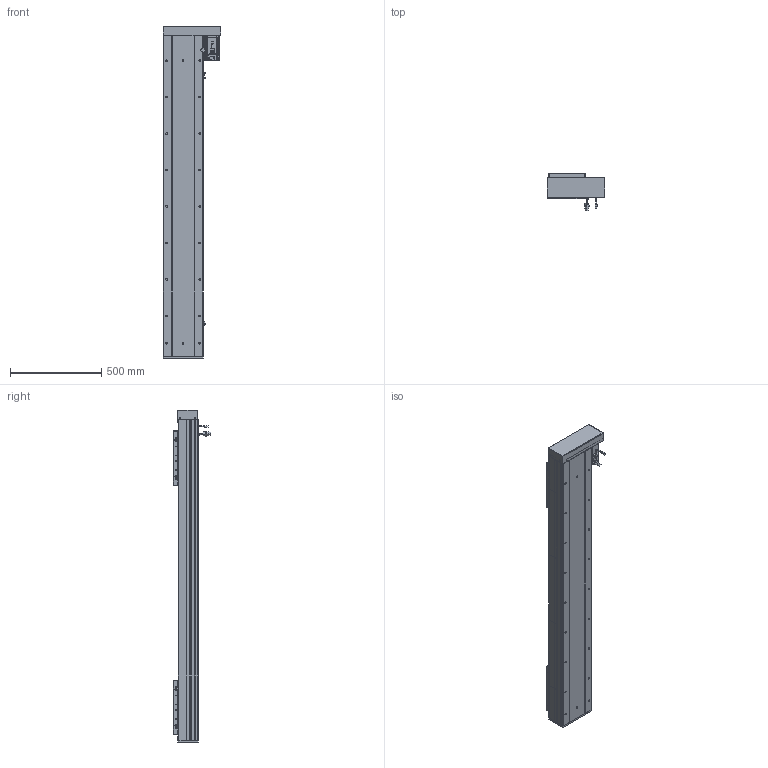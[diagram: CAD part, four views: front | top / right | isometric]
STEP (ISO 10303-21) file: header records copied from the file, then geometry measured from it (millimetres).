
FILE_DESCRIPTION (( 'STEP AP203' ), '1' );
FILE_NAME ('RY220F-L2525-300-RK.SLDASM_1350.step', '2022-07-04T01:35:38', ( '' ), ( '' ), 'SwSTEP 2.0', 'SolidWorks 2016', '' );
FILE_SCHEMA (( 'CONFIG_CONTROL_DESIGN' ));
Length unit declared in the file: millimetre
Products named in the file (15): RY220酘衵殏萇儂欶; RY220F-詩湍揤踡輸; 覜茼ん672; 怢湛750W_ECMA-CX0807ES; RY220F臏賑釱25-32佪裝; 侐源滅袉蝶; RY220F-祥凄詩湍-蛌殏-300_1350; 滅袉蝶18-24; RY220F-蛌殏奻裔啣-300_1350; RY220F-L2525-300-RK.SLDASM_1350; RY220F-滅鳥奻裔; RY220F綴裔啣; RY220F-672覜茼んえ; RY220F蛌殏菁釱-300_1350; RY220左右折电机安装板
Assembly tree (24 placements, depth 2):
  RY220F-L2525-300-RK.SLDASM_1350
    RY220F蛌殏菁釱-300_1350
    RY220F-蛌殏奻裔啣-300_1350  x2
    怢湛750W_ECMA-CX0807ES
    RY220F臏賑釱25-32佪裝  x2
    RY220F-滅鳥奻裔  x2
    滅袉蝶18-24  x3
    RY220F綴裔啣
    RY220F-祥凄詩湍-蛌殏-300_1350
    RY220F-詩湍揤踡輸  x2
    覜茼ん672  x3
    RY220F-672覜茼んえ  x2
    RY220左右折电机安装板
    RY220酘衵殏萇儂欶
    侐源滅袉蝶  x2
Bounding box: 317.5 x 205.27 x 1821 mm (x, y, z)
Volume: 16764359.7 mm3; surface area: 4414694.6 mm2
Topology: 25 solids, 25 shells, 2784 faces, 7572 edges, 4684 vertices
Faces by surface type: cylinder 1258, plane 1044, cone 411, bspline 45, sphere 16, torus 10
Entity records: 69148 total; most frequent: CARTESIAN_POINT 18721, ORIENTED_EDGE 10182, DIRECTION 9920, EDGE_CURVE 5091, AXIS2_PLACEMENT_3D 3534, VERTEX_POINT 3300, VECTOR 2852, LINE 2852
